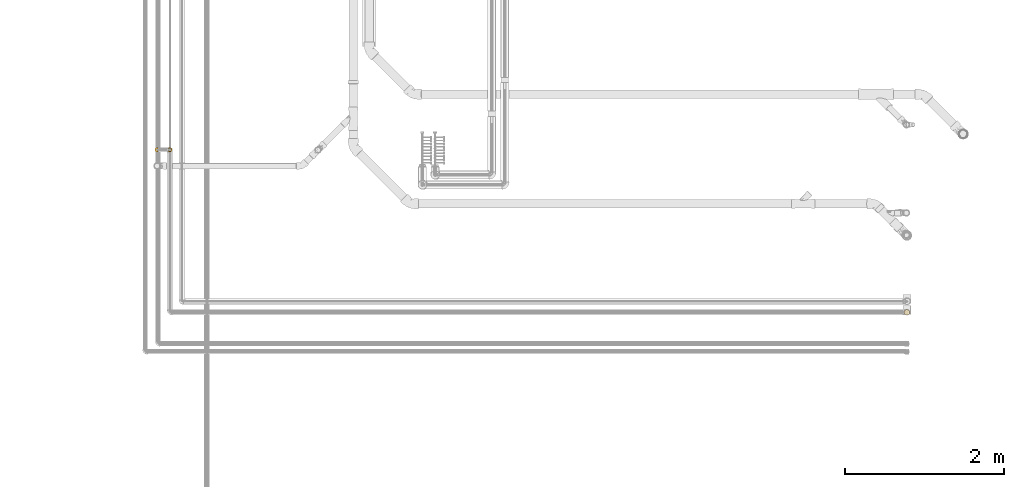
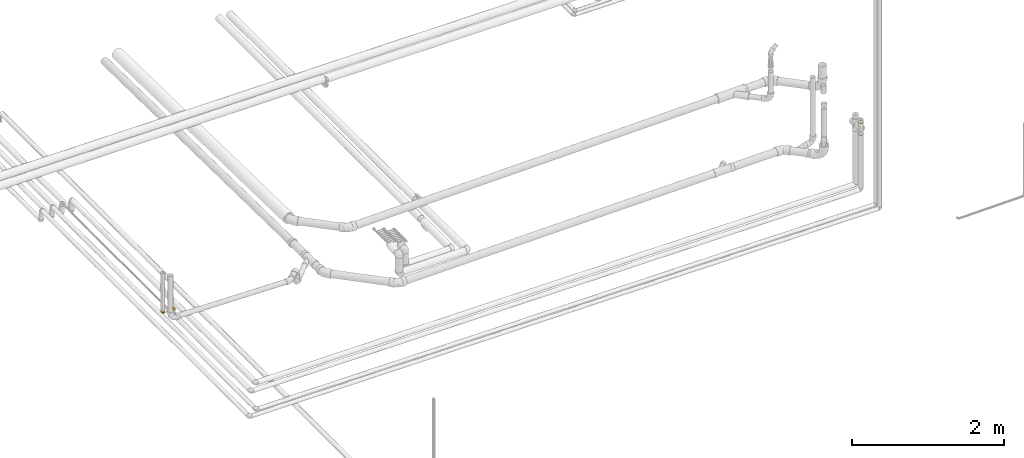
# One storey, part 10 of 83: 4 coverings.
"""IFC2X3 building model written with IfcOpenShell, lengths in millimetres."""

from ifc_helpers import new_model, entity, si_unit, converted_unit, derived_unit, direction, frame, origin_with_axes, place, context, subcontext, project, spatial, open_shell, surface_model, source, transform, mapped, element, save


model = new_model("IFC2X3")

# Units and contexts
model_context = context("Model", 3, precision=0.01, world=frame((0.0, 4.29681676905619e-09, 0.0)), true_north=direction((4.01073788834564e-13, 1.0)))
plan_context = context("Plan", 3, precision=0.01, world=frame((0.0, 4.29681676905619e-09, 0.0)), true_north=direction((4.01073788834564e-13, 1.0)))
body_context = subcontext(model_context, "Body", "Model", "MODEL_VIEW")
ifc_project = project(units=[converted_unit("PLANEANGLEUNIT", "DEGREE", entity("IfcPositiveLengthMeasure", 0.0174532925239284), si_unit("PLANEANGLEUNIT", "RADIAN"), dimensions=[0, 0, 0, 0, 0, 0, 0]), si_unit("AREAUNIT", "SQUARE_METRE"), si_unit("LENGTHUNIT", "METRE", prefix="MILLI"), si_unit("MASSUNIT", "GRAM", prefix="KILO"), si_unit("POWERUNIT", "WATT"), si_unit("PRESSUREUNIT", "PASCAL"), si_unit("FORCEUNIT", "NEWTON", prefix="KILO"), si_unit("ELECTRICVOLTAGEUNIT", "VOLT"), si_unit("ELECTRICCURRENTUNIT", "AMPERE"), si_unit("THERMODYNAMICTEMPERATUREUNIT", "DEGREE_CELSIUS"), si_unit("TIMEUNIT", "SECOND"), si_unit("VOLUMEUNIT", "CUBIC_METRE"), derived_unit("LINEARVELOCITYUNIT", [(si_unit("LENGTHUNIT", "METRE"), 1), (si_unit("TIMEUNIT", "SECOND"), -1)]), derived_unit("VOLUMETRICFLOWRATEUNIT", [(si_unit("VOLUMEUNIT", "CUBIC_METRE"), 1), (si_unit("TIMEUNIT", "SECOND"), -1)]), derived_unit("THERMALTRANSMITTANCEUNIT", [(si_unit("POWERUNIT", "WATT"), 1), (si_unit("THERMODYNAMICTEMPERATUREUNIT", "KELVIN"), -1), (si_unit("AREAUNIT", "SQUARE_METRE"), -1)]), derived_unit("SOUNDPRESSUREUNIT", [(si_unit("PRESSUREUNIT", "PASCAL"), 1)])], contexts=[model_context, plan_context])

# Site, building, storey
site_placement = place(None, frame((0.0, -4.29681676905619e-09, 0.0), z_axis=(0.0, 0.0, 1.0), x_axis=(1.0, 0.0, 0.0)))
site = spatial("IfcSite", under=ifc_project, at=site_placement, Name="ENGM", CompositionType="ELEMENT")
building_placement = place(site_placement, frame((0.0, 4.29681676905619e-09, 0.0), z_axis=(0.0, 0.0, 1.0), x_axis=(1.0, 0.0, 0.0)))
building = spatial("IfcBuilding", under=site, at=building_placement, Name="TI", CompositionType="ELEMENT")
storey_placement = place(building_placement, frame((0.0, 0.0, 204000.0), z_axis=(0.0, 0.0, 1.0), x_axis=(1.0, 0.0, 0.0)))
storey = spatial("IfcBuildingStorey", under=building, at=storey_placement, Name="Nivå D", CompositionType="ELEMENT", Elevation=204000.0)

# Coverings
shared_shape_1 = source(origin_with_axes(), body_context, "Body", "SurfaceModel", [
    surface_model("IfcShellBasedSurfaceModel", [(0.0, -17.5, -30.31089), (0.0, -30.31089, -17.5), (0.0, -35.0, 0.0), (0.0, -17.5, 30.31089), (0.0, 0.0, 35.0), (0.0, 17.5, 30.31089), (0.0, -30.31089, 17.5), (0.0, 30.31089, 17.5), (0.0, 35.0, 0.0), (0.0, 30.31089, -17.5), (0.0, 17.5, -30.31089), (0.0, 0.0, -35.0), (3.0, 17.5, 30.31089), (3.0, -17.5, 30.31089), (3.0, -30.31089, 17.5), (3.0, -30.31089, -17.5), (3.0, 0.0, 35.0), (3.0, 30.31089, 17.5), (3.0, -17.5, -30.31089), (3.0, -35.0, 0.0), (3.0, 0.0, -35.0), (3.0, 17.5, -30.31089), (3.0, 30.31089, -17.5), (3.0, 35.0, 0.0), (3.0, -31.69649, -12.32886), (0.0, -32.65544, -8.75), (3.0, -33.34825, -6.16443), (0.0, -23.90544, -23.90544), (3.0, -8.75, -32.65544), (0.0, -12.32886, -31.69649), (0.0, -6.16443, -33.34825), (3.0, -23.90544, -23.90544), (3.0, 12.32886, -31.69649), (0.0, 8.75, -32.65544), (3.0, 6.16443, -33.34825), (0.0, 23.90544, -23.90544), (3.0, 32.65544, -8.75), (0.0, 31.69649, -12.32886), (0.0, 33.34825, -6.16443), (3.0, 23.90544, -23.90544), (3.0, 31.69649, 12.32886), (0.0, 32.65544, 8.75), (3.0, 33.34825, 6.16443), (0.0, 23.90544, 23.90544), (3.0, 8.75, 32.65544), (0.0, 12.32886, 31.69649), (0.0, 6.16443, 33.34825), (3.0, 23.90544, 23.90544), (3.0, -12.32886, 31.69649), (0.0, -8.75, 32.65544), (3.0, -6.16443, 33.34825), (0.0, -23.90544, 23.90544), (3.0, -32.65544, 8.75), (0.0, -31.69649, 12.32886), (0.0, -33.34825, 6.16443), (3.0, -23.90544, 23.90544)], [open_shell([[[0, 1, 2]], [[3, 4, 5]], [[5, 0, 6]], [[5, 6, 3]], [[2, 6, 0]], [[5, 7, 8]], [[9, 10, 5]], [[10, 0, 5]], [[0, 10, 11]], [[8, 9, 5]], [[12, 13, 14]], [[15, 12, 14]], [[13, 12, 16]], [[17, 12, 18]], [[15, 14, 19]], [[18, 20, 17]], [[20, 21, 17]], [[22, 23, 17]], [[17, 21, 22]], [[18, 12, 15]], [[1, 24, 25]], [[25, 24, 26]], [[2, 25, 26]], [[26, 19, 2]], [[18, 27, 0]], [[28, 29, 30]], [[18, 29, 28]], [[29, 18, 0]], [[27, 18, 31]], [[30, 11, 20]], [[31, 15, 1]], [[31, 1, 27]], [[28, 30, 20]], [[1, 15, 24]], [[10, 32, 33]], [[33, 32, 34]], [[11, 33, 34]], [[34, 20, 11]], [[22, 35, 9]], [[36, 37, 38]], [[22, 37, 36]], [[37, 22, 9]], [[35, 22, 39]], [[38, 8, 23]], [[39, 21, 10]], [[39, 10, 35]], [[36, 38, 23]], [[10, 21, 32]], [[7, 40, 41]], [[41, 40, 42]], [[8, 41, 42]], [[42, 23, 8]], [[12, 43, 5]], [[44, 45, 46]], [[12, 45, 44]], [[45, 12, 5]], [[43, 12, 47]], [[46, 4, 16]], [[47, 17, 7]], [[47, 7, 43]], [[44, 46, 16]], [[7, 17, 40]], [[3, 48, 49]], [[49, 48, 50]], [[4, 49, 50]], [[50, 16, 4]], [[14, 51, 6]], [[52, 53, 54]], [[14, 53, 52]], [[53, 14, 6]], [[51, 14, 55]], [[54, 2, 19]], [[55, 13, 3]], [[55, 3, 51]], [[52, 54, 19]], [[3, 13, 48]]])]),
])
for number, where, z_axis, x_axis in (
    (1, (609131.50429, 691635.97914, 7106.94321), (0.0, 1.0, 0.0), (0.0, 0.0, 1.0)),
    (2, (609131.50429, 691635.97914, 7302.94321), (0.0, 1.0, 0.0), (0.0, 0.0, -1.0)),
):
    element("IfcCovering", number, at=place(storey_placement, frame(where, z_axis=z_axis, x_axis=x_axis)), inside=storey, Name="BI15T - Cellegummi KV 15mm", PredefinedType="INSULATION", context=body_context, shape_type="MappedRepresentation", body=[
        mapped(shared_shape_1, transform((0.0, 0.0, 0.0), scale=1.0)),
    ])
shared_shape_2 = source(origin_with_axes(), body_context, "Body", "SurfaceModel", [
    surface_model("IfcShellBasedSurfaceModel", [(11.93614, 15.0, 24.77456), (17.15016, 15.0, 21.49702), (21.50356, 15.0, 17.14197), (24.77856, 15.0, 11.92782), (26.81132, 15.0, 6.11583), (0.0, 15.0, 27.5), (-14.76876, 15.0, -23.19771), (-5.16248, 15.0, 27.01109), (-10.14354, 15.0, 25.56088), (-14.76876, 15.0, 23.19771), (6.12238, 15.0, 26.80982), (24.77456, 15.0, -11.93614), (26.80982, 15.0, -6.12238), (21.49702, 15.0, -17.15016), (17.14197, 15.0, -21.50356), (11.92782, 15.0, -24.77856), (-10.15137, 15.0, -25.55777), (-5.17075, 15.0, -27.0095), (6.11583, 15.0, -26.81132), (0.0, 15.0, -27.5), (27.5, 15.0, 0.0), (-15.0, 14.76876, 23.19771), (-15.0, 14.76876, -23.19771), (-15.0, 10.14805, -25.55909), (-15.0, -13.75, 23.8157), (-15.0, 0.0, 27.5), (-15.0, 5.16599, -27.01042), (-15.0, 10.14805, 25.55909), (-15.0, 5.16599, 27.01042), (-15.0, -7.11752, 26.56296), (-15.0, 0.0, -27.5), (-15.0, -13.75, -23.8157), (-15.0, -23.8157, -13.75), (-15.0, -19.44544, -19.44544), (-15.0, -27.5, 0.0), (-15.0, -26.56296, -7.11752), (-15.0, -19.44544, 19.44544), (-15.0, -23.8157, 13.75), (-15.0, -26.56296, 7.11752), (-15.0, -7.11752, -26.56296), (-14.83649, 14.83649, 23.19771), (-14.83649, 14.83649, -23.19771), (-9.83314, 9.83084, -26.40253), (-4.3934, 4.3934, -27.5), (-12.83947, 12.05061, -25.05125), (-4.48793, -24.01534, -10.52379), (-11.98334, 1.24954, -27.5), (-9.37684, -9.89667, -25.40669), (-8.82333, -4.41336, -26.97014), (-7.04505, 3.29505, -27.5), (-5.1718, -3.02029, -26.93903), (-9.6967, 2.1967, -27.5), (24.65994, 4.7804, -9.08643), (1.06278, -23.77897, -5.3526), (6.25, -21.80608, 0.0), (-4.375, -24.65304, 0.0), (1.54868, -12.7037, -21.40086), (4.32424, -4.93171, -24.3597), (9.55297, -9.15335, -19.44914), (-6.74238, -15.64799, -21.81722), (-1.24954, 11.98334, -27.5), (-8.5236, -21.24312, -16.74094), (-0.77018, -18.95614, -16.74094), (8.31737, 8.99221, -25.95811), (15.40258, -1.18426, -19.44893), (18.35244, 6.40655, -19.44914), (20.06511, -0.36118, -14.63519), (12.13715, 3.11198, -23.28745), (14.08693, 9.36968, -23.28745), (14.85125, -14.38152, -5.78233), (21.80608, -6.25, 0.0), (14.02804, -14.02804, 0.0), (4.36843, 2.94628, -26.36681), (-1.36459, -1.6148, -26.72233), (25.07086, 5.93431, 0.0), (20.29431, -6.45586, -8.02095), (22.58459, 7.72498, -14.63519), (-2.49909, 8.96667, -27.5), (8.33474, -14.73903, -15.37407), (2.78643, -21.46003, -10.12782), (-7.07519, -26.25186, -5.1881), (15.0344, -9.43108, -13.92095), (10.00026, -3.0542, -22.48144), (8.16542, -20.09043, -4.96929), (-3.21442, -7.63988, -25.40669), (9.46251, -17.5384, -9.76399), (-4.49126, -24.01624, 10.52379), (-7.07517, -26.25186, 5.18812), (2.7851, -21.45964, 10.13017), (-0.77879, -18.95975, 16.74094), (-8.52869, -21.24403, 16.74094), (10.00623, -3.06404, 22.47397), (4.36772, 2.93777, 26.36566), (4.32909, -4.93518, 24.35662), (14.09461, 9.36543, 23.28221), (18.35902, 6.40238, 19.44173), (-1.36241, -1.61745, 26.7215), (-5.47085, -2.34739, 27.07921), (-3.21442, -7.63988, 25.40669), (15.40846, -1.18809, 19.44194), (12.14263, 3.10369, 23.28221), (-6.745, -15.64869, 21.81722), (8.32409, 8.9881, 25.95548), (20.06721, -0.36943, 14.62684), (22.58901, 7.7202, 14.62684), (-9.37684, -9.89667, 25.40669), (-2.49909, 8.96667, 27.5), (1.54508, -12.70941, 21.39839), (20.30092, -6.44893, 8.01422), (24.66205, 4.77802, 9.0789), (-11.98334, 1.24954, 27.5), (15.03275, -9.44266, 13.91067), (-8.82333, -4.41336, 26.97014), (-1.24954, 11.98334, 27.5), (-9.6967, 2.1967, 27.5), (-7.04505, 3.29505, 27.5), (1.06272, -23.77883, 5.35336), (9.46283, -17.53693, 9.7666), (8.16718, -20.08904, 4.97031), (14.85491, -14.37711, 5.78458), (8.34277, -14.73848, 15.36735), (-4.3934, 4.3934, 27.5), (9.54904, -9.16792, 19.44173), (-9.83314, 9.83084, 26.40253), (-8.43135, 6.03295, 27.22427)], [open_shell([[[0, 1, 2]], [[2, 3, 4]], [[0, 2, 5]], [[5, 2, 6]], [[7, 5, 8]], [[6, 8, 5]], [[9, 8, 6]], [[0, 5, 10]], [[2, 4, 11]], [[12, 11, 4]], [[6, 11, 13]], [[11, 6, 2]], [[13, 14, 15]], [[16, 6, 17]], [[15, 6, 13]], [[18, 6, 15]], [[19, 17, 6]], [[19, 6, 18]], [[12, 4, 20]], [[21, 22, 23]], [[24, 25, 23]], [[23, 26, 24]], [[27, 21, 25]], [[27, 25, 28]], [[21, 23, 25]], [[25, 24, 29]], [[26, 30, 24]], [[30, 31, 24]], [[24, 31, 32]], [[32, 31, 33]], [[34, 32, 35]], [[36, 24, 37]], [[37, 34, 38]], [[37, 24, 32]], [[32, 34, 37]], [[31, 30, 39]], [[22, 21, 40]], [[41, 22, 40]], [[9, 6, 40]], [[41, 40, 6]], [[42, 26, 23]], [[30, 26, 43]], [[43, 26, 42]], [[42, 23, 44]], [[22, 41, 44]], [[41, 6, 16]], [[19, 43, 17]], [[16, 44, 41]], [[22, 44, 23]], [[16, 17, 42]], [[16, 42, 44]], [[43, 42, 17]], [[32, 45, 35]], [[39, 30, 46]], [[47, 31, 39]], [[39, 48, 47]], [[49, 50, 51]], [[11, 12, 52]], [[53, 54, 55]], [[56, 57, 58]], [[31, 59, 33]], [[18, 60, 19]], [[33, 61, 32]], [[32, 61, 45]], [[59, 62, 61]], [[15, 63, 18]], [[60, 18, 63]], [[64, 65, 66]], [[65, 14, 13]], [[67, 68, 65]], [[69, 70, 71]], [[15, 68, 63]], [[72, 57, 73]], [[12, 20, 74]], [[67, 65, 64]], [[66, 52, 75]], [[13, 11, 76]], [[62, 59, 56]], [[52, 70, 75]], [[76, 65, 13]], [[52, 76, 11]], [[66, 76, 52]], [[72, 77, 63]], [[68, 15, 14]], [[12, 74, 52]], [[72, 63, 67]], [[70, 52, 74]], [[47, 59, 31]], [[56, 58, 78]], [[62, 78, 79]], [[45, 53, 80]], [[58, 81, 78]], [[81, 66, 75]], [[64, 82, 67]], [[43, 77, 72]], [[71, 83, 69]], [[81, 58, 64]], [[53, 83, 54]], [[35, 80, 34]], [[65, 76, 66]], [[65, 68, 14]], [[63, 68, 67]], [[46, 48, 39]], [[59, 47, 84]], [[59, 84, 56]], [[57, 56, 84]], [[84, 48, 50]], [[82, 72, 67]], [[69, 81, 75]], [[83, 71, 54]], [[78, 81, 85]], [[46, 51, 48]], [[43, 73, 49]], [[84, 47, 48]], [[73, 84, 50]], [[72, 73, 43]], [[84, 73, 57]], [[80, 53, 55]], [[79, 53, 45]], [[34, 80, 55]], [[45, 80, 35]], [[81, 64, 66]], [[82, 58, 57]], [[58, 82, 64]], [[72, 82, 57]], [[79, 78, 85]], [[56, 78, 62]], [[59, 61, 33]], [[45, 61, 62]], [[62, 79, 45]], [[83, 79, 85]], [[79, 83, 53]], [[83, 85, 69]], [[81, 69, 85]], [[70, 69, 75]], [[63, 77, 60]], [[51, 50, 48]], [[49, 73, 50]], [[37, 38, 86]], [[34, 55, 87]], [[86, 88, 89]], [[86, 89, 90]], [[91, 92, 93]], [[94, 95, 1]], [[96, 97, 98]], [[99, 95, 100]], [[36, 101, 24]], [[100, 102, 92]], [[95, 103, 104]], [[105, 29, 24]], [[92, 102, 106]], [[89, 107, 101]], [[108, 70, 109]], [[29, 110, 25]], [[95, 2, 1]], [[74, 109, 70]], [[111, 108, 103]], [[109, 4, 3]], [[74, 20, 4]], [[36, 90, 101]], [[0, 94, 1]], [[110, 29, 112]], [[99, 103, 95]], [[36, 37, 90]], [[102, 0, 10]], [[93, 98, 107]], [[104, 109, 3]], [[94, 102, 100]], [[10, 113, 102]], [[3, 2, 104]], [[109, 103, 108]], [[114, 97, 115]], [[74, 4, 109]], [[55, 54, 116]], [[116, 88, 86]], [[117, 118, 119]], [[120, 117, 111]], [[89, 120, 107]], [[105, 101, 98]], [[106, 121, 92]], [[96, 115, 97]], [[103, 99, 111]], [[71, 119, 118]], [[55, 116, 87]], [[95, 104, 2]], [[109, 104, 103]], [[102, 94, 0]], [[95, 94, 100]], [[101, 105, 24]], [[112, 29, 105]], [[93, 107, 122]], [[108, 119, 70]], [[98, 101, 107]], [[122, 99, 91]], [[96, 92, 121]], [[120, 111, 122]], [[119, 111, 117]], [[110, 112, 114]], [[105, 98, 112]], [[96, 98, 93]], [[115, 96, 121]], [[112, 97, 114]], [[92, 96, 93]], [[118, 116, 54]], [[87, 86, 38]], [[86, 87, 116]], [[34, 87, 38]], [[91, 99, 100]], [[111, 99, 122]], [[92, 91, 100]], [[122, 91, 93]], [[107, 120, 122]], [[88, 120, 89]], [[86, 90, 37]], [[101, 90, 89]], [[71, 118, 54]], [[88, 118, 117]], [[70, 119, 71]], [[111, 119, 108]], [[118, 88, 116]], [[88, 117, 120]], [[113, 10, 5]], [[113, 106, 102]], [[98, 97, 112]], [[123, 27, 28]], [[21, 27, 40]], [[40, 27, 123]], [[123, 28, 124]], [[25, 121, 124]], [[121, 5, 7]], [[9, 40, 8]], [[7, 124, 121]], [[25, 124, 28]], [[7, 8, 123]], [[7, 123, 124]], [[40, 123, 8]]])]),
])
for number, where, z_axis, x_axis in (
    (3, (599719.29255, 693675.702, 6315.0), (0.0, -1.0, 0.0), (0.0, 0.0, -1.0)),
    (4, (599881.50429, 693675.702, 6315.0), (0.0, -1.0, 0.0), (0.0, 0.0, 1.0)),
):
    element("IfcCovering", number, at=place(storey_placement, frame(where, z_axis=z_axis, x_axis=x_axis)), inside=storey, Name="BI15T - Cellegummi KV 15mm", PredefinedType="INSULATION", context=body_context, shape_type="MappedRepresentation", body=[
        mapped(shared_shape_2, transform((0.0, 0.0, 0.0), scale=1.0)),
    ])

save(model, "model.ifc")
